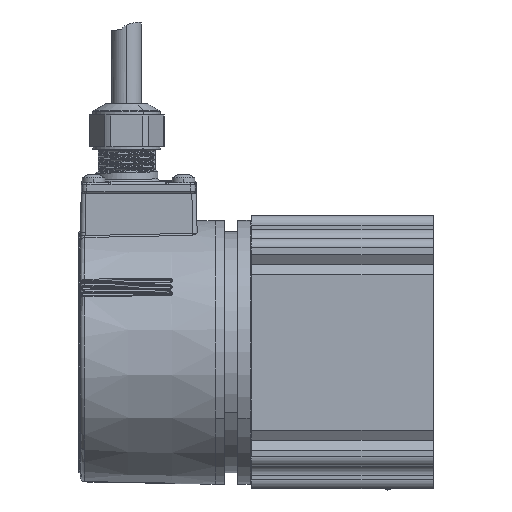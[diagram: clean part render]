
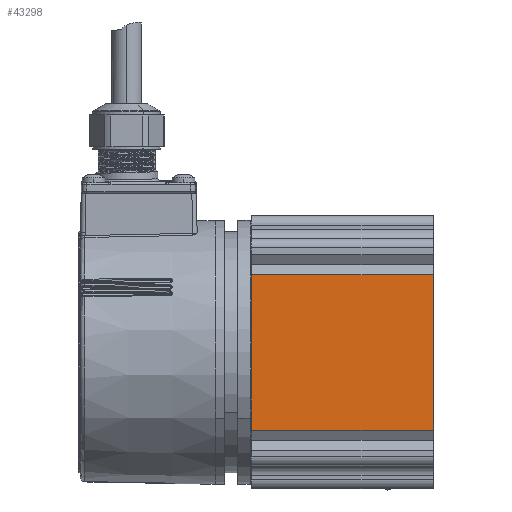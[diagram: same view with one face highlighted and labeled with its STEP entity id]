
A CAD part, front view. The second image highlights one B-rep face of the part: STEP entity #43298.
In plain terms, the highlighted planar face has unit normal (0, -1, 0).
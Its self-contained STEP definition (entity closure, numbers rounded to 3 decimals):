
#39852=DIRECTION('',(1.,0.,0.));
#39853=VECTOR('',#39852,34.172);
#39854=CARTESIAN_POINT('',(-17.086,-30.,0.));
#39855=LINE('',#39854,#39853);
#40877=DIRECTION('',(1.,0.,0.));
#40878=VECTOR('',#40877,34.172);
#40879=CARTESIAN_POINT('',(-17.086,-30.,40.));
#40880=LINE('',#40879,#40878);
#41239=DIRECTION('',(0.,0.,1.));
#41240=VECTOR('',#41239,40.);
#41241=CARTESIAN_POINT('',(-17.086,-30.,0.));
#41242=LINE('',#41241,#41240);
#41246=DIRECTION('',(0.,0.,1.));
#41247=VECTOR('',#41246,40.);
#41248=CARTESIAN_POINT('',(17.086,-30.,0.));
#41249=LINE('',#41248,#41247);
#42118=CARTESIAN_POINT('',(-17.086,-30.,0.));
#42119=VERTEX_POINT('',#42118);
#42120=CARTESIAN_POINT('',(17.086,-30.,0.));
#42121=VERTEX_POINT('',#42120);
#42250=CARTESIAN_POINT('',(-17.086,-30.,40.));
#42251=VERTEX_POINT('',#42250);
#42252=CARTESIAN_POINT('',(17.086,-30.,40.));
#42253=VERTEX_POINT('',#42252);
#43286=CARTESIAN_POINT('',(-17.086,-30.,0.));
#43287=DIRECTION('',(0.,-1.,0.));
#43288=DIRECTION('',(1.,0.,0.));
#43289=AXIS2_PLACEMENT_3D('',#43286,#43287,#43288);
#43290=PLANE('',#43289);
#43291=ORIENTED_EDGE('',*,*,#42534,.F.);
#43292=ORIENTED_EDGE('',*,*,#43281,.T.);
#43293=ORIENTED_EDGE('',*,*,#42917,.T.);
#43295=ORIENTED_EDGE('',*,*,#43294,.F.);
#43296=EDGE_LOOP('',(#43291,#43292,#43293,#43295));
#43297=FACE_OUTER_BOUND('',#43296,.F.);
#42534=EDGE_CURVE('',#42119,#42121,#39855,.T.);
#42917=EDGE_CURVE('',#42251,#42253,#40880,.T.);
#43281=EDGE_CURVE('',#42119,#42251,#41242,.T.);
#43294=EDGE_CURVE('',#42121,#42253,#41249,.T.);
#43298=ADVANCED_FACE('',(#43297),#43290,.T.);
